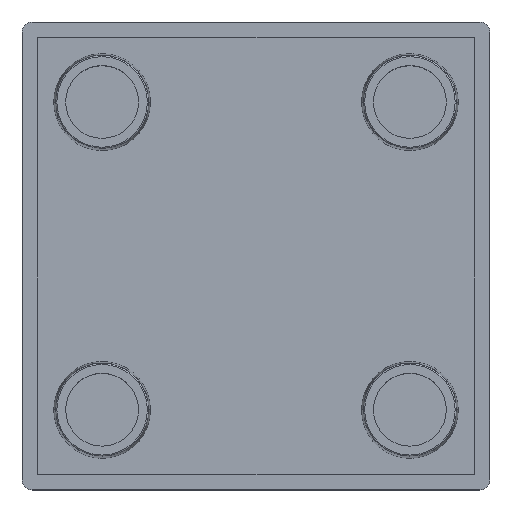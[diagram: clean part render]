
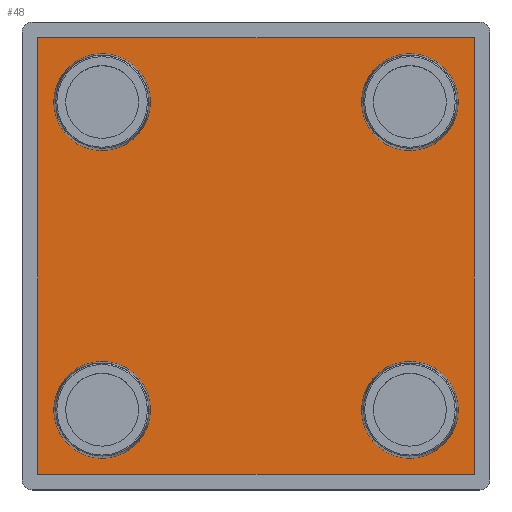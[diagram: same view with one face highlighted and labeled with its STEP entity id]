
A CAD part, top view. The second image highlights one B-rep face of the part: STEP entity #48.
In plain terms, the highlighted planar face has unit normal (0, 0, 1).
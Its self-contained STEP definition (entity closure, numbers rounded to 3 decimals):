
#16 = EDGE_CURVE ( 'NONE', #281, #1581, #121, .T. ) ;
#48 = ADVANCED_FACE ( 'NONE', ( #887, #656, #618, #548, #266 ), #86, .F. ) ;
#81 = CIRCLE ( 'NONE', #1530, 4.65 ) ;
#86 = PLANE ( 'NONE',  #604 ) ;
#121 = CIRCLE ( 'NONE', #1711, 4.65 ) ;
#139 = CARTESIAN_POINT ( 'NONE',  ( -21., -21., 1.5 ) ) ;
#160 = ORIENTED_EDGE ( 'NONE', *, *, #1577, .F. ) ;
#168 = VECTOR ( 'NONE', #1511, 1000. ) ;
#187 = CIRCLE ( 'NONE', #203, 4.65 ) ;
#199 = EDGE_CURVE ( 'NONE', #1371, #631, #1258, .T. ) ;
#200 = ORIENTED_EDGE ( 'NONE', *, *, #1454, .F. ) ;
#201 = EDGE_LOOP ( 'NONE', ( #200, #160 ) ) ;
#203 = AXIS2_PLACEMENT_3D ( 'NONE', #1361, #1410, #1405 ) ;
#224 = ORIENTED_EDGE ( 'NONE', *, *, #1602, .F. ) ;
#229 = VECTOR ( 'NONE', #254, 1000. ) ;
#254 = DIRECTION ( 'NONE',  ( 1., 0., 0. ) ) ;
#266 = FACE_OUTER_BOUND ( 'NONE', #1641, .T. ) ;
#281 = VERTEX_POINT ( 'NONE', #1689 ) ;
#296 = DIRECTION ( 'NONE',  ( -1., 0., 0. ) ) ;
#315 = LINE ( 'NONE', #566, #1003 ) ;
#328 = ORIENTED_EDGE ( 'NONE', *, *, #1492, .T. ) ;
#363 = CARTESIAN_POINT ( 'NONE',  ( 10.15, -14.8, 1.5 ) ) ;
#367 = VERTEX_POINT ( 'NONE', #942 ) ;
#449 = DIRECTION ( 'NONE',  ( -1., 0., 0. ) ) ;
#451 = VERTEX_POINT ( 'NONE', #1251 ) ;
#472 = VERTEX_POINT ( 'NONE', #1389 ) ;
#473 = ORIENTED_EDGE ( 'NONE', *, *, #915, .T. ) ;
#499 = LINE ( 'NONE', #139, #229 ) ;
#548 = FACE_BOUND ( 'NONE', #1423, .T. ) ;
#555 = AXIS2_PLACEMENT_3D ( 'NONE', #1095, #1005, #986 ) ;
#561 = CIRCLE ( 'NONE', #885, 4.65 ) ;
#566 = CARTESIAN_POINT ( 'NONE',  ( -21., -21., 1.5 ) ) ;
#575 = DIRECTION ( 'NONE',  ( 0., -1., 0. ) ) ;
#588 = CARTESIAN_POINT ( 'NONE',  ( 19.45, 14.8, 1.5 ) ) ;
#603 = CIRCLE ( 'NONE', #1063, 4.65 ) ;
#604 = AXIS2_PLACEMENT_3D ( 'NONE', #1146, #1193, #296 ) ;
#618 = FACE_BOUND ( 'NONE', #1054, .T. ) ;
#631 = VERTEX_POINT ( 'NONE', #363 ) ;
#656 = FACE_BOUND ( 'NONE', #201, .T. ) ;
#751 = ORIENTED_EDGE ( 'NONE', *, *, #16, .F. ) ;
#771 = DIRECTION ( 'NONE',  ( -1., 0., 0. ) ) ;
#779 = CIRCLE ( 'NONE', #906, 4.65 ) ;
#789 = ORIENTED_EDGE ( 'NONE', *, *, #1358, .T. ) ;
#794 = ORIENTED_EDGE ( 'NONE', *, *, #1212, .F. ) ;
#822 = EDGE_CURVE ( 'NONE', #1581, #281, #561, .T. ) ;
#871 = VECTOR ( 'NONE', #449, 1000. ) ;
#874 = EDGE_CURVE ( 'NONE', #1460, #451, #1194, .T. ) ;
#885 = AXIS2_PLACEMENT_3D ( 'NONE', #1128, #1632, #1374 ) ;
#887 = FACE_BOUND ( 'NONE', #922, .T. ) ;
#906 = AXIS2_PLACEMENT_3D ( 'NONE', #1236, #955, #963 ) ;
#915 = EDGE_CURVE ( 'NONE', #1720, #1460, #1219, .T. ) ;
#922 = EDGE_LOOP ( 'NONE', ( #794, #970 ) ) ;
#938 = CARTESIAN_POINT ( 'NONE',  ( -21., -21., 1.5 ) ) ;
#942 = CARTESIAN_POINT ( 'NONE',  ( 10.15, 14.8, 1.5 ) ) ;
#955 = DIRECTION ( 'NONE',  ( 0., 0., 1. ) ) ;
#963 = DIRECTION ( 'NONE',  ( -1., 0., 0. ) ) ;
#970 = ORIENTED_EDGE ( 'NONE', *, *, #199, .F. ) ;
#986 = DIRECTION ( 'NONE',  ( -1., 0., 0. ) ) ;
#1003 = VECTOR ( 'NONE', #575, 1000. ) ;
#1005 = DIRECTION ( 'NONE',  ( 0., 0., 1. ) ) ;
#1008 = DIRECTION ( 'NONE',  ( -1., 0., 0. ) ) ;
#1010 = CARTESIAN_POINT ( 'NONE',  ( -21., 21., 1.5 ) ) ;
#1012 = DIRECTION ( 'NONE',  ( 0., 0., 1. ) ) ;
#1033 = DIRECTION ( 'NONE',  ( 0., 0., 1. ) ) ;
#1054 = EDGE_LOOP ( 'NONE', ( #1166, #751 ) ) ;
#1063 = AXIS2_PLACEMENT_3D ( 'NONE', #1117, #1012, #1008 ) ;
#1073 = CARTESIAN_POINT ( 'NONE',  ( 19.45, -14.8, 1.5 ) ) ;
#1081 = DIRECTION ( 'NONE',  ( -1., 0., 0. ) ) ;
#1090 = DIRECTION ( 'NONE',  ( 0., 0., 1. ) ) ;
#1094 = CARTESIAN_POINT ( 'NONE',  ( -14.8, 14.8, 1.5 ) ) ;
#1095 = CARTESIAN_POINT ( 'NONE',  ( -14.8, 14.8, 1.5 ) ) ;
#1103 = ORIENTED_EDGE ( 'NONE', *, *, #874, .T. ) ;
#1117 = CARTESIAN_POINT ( 'NONE',  ( 14.8, 14.8, 1.5 ) ) ;
#1128 = CARTESIAN_POINT ( 'NONE',  ( -14.8, -14.8, 1.5 ) ) ;
#1146 = CARTESIAN_POINT ( 'NONE',  ( 0., 0., 1.5 ) ) ;
#1151 = CARTESIAN_POINT ( 'NONE',  ( 21., 21., 1.5 ) ) ;
#1159 = DIRECTION ( 'NONE',  ( -1., 0., 0. ) ) ;
#1166 = ORIENTED_EDGE ( 'NONE', *, *, #822, .F. ) ;
#1193 = DIRECTION ( 'NONE',  ( 0., 0., -1. ) ) ;
#1194 = LINE ( 'NONE', #1010, #871 ) ;
#1212 = EDGE_CURVE ( 'NONE', #631, #1371, #779, .T. ) ;
#1219 = LINE ( 'NONE', #1501, #168 ) ;
#1232 = CARTESIAN_POINT ( 'NONE',  ( 21., -21., 1.5 ) ) ;
#1236 = CARTESIAN_POINT ( 'NONE',  ( 14.8, -14.8, 1.5 ) ) ;
#1251 = CARTESIAN_POINT ( 'NONE',  ( -21., 21., 1.5 ) ) ;
#1258 = CIRCLE ( 'NONE', #1516, 4.65 ) ;
#1283 = CARTESIAN_POINT ( 'NONE',  ( -14.8, -14.8, 1.5 ) ) ;
#1289 = CARTESIAN_POINT ( 'NONE',  ( -10.15, 14.8, 1.5 ) ) ;
#1291 = EDGE_CURVE ( 'NONE', #1471, #472, #81, .T. ) ;
#1299 = VERTEX_POINT ( 'NONE', #938 ) ;
#1358 = EDGE_CURVE ( 'NONE', #1299, #1720, #499, .T. ) ;
#1361 = CARTESIAN_POINT ( 'NONE',  ( 14.8, 14.8, 1.5 ) ) ;
#1371 = VERTEX_POINT ( 'NONE', #1073 ) ;
#1374 = DIRECTION ( 'NONE',  ( -1., 0., 0. ) ) ;
#1389 = CARTESIAN_POINT ( 'NONE',  ( -19.45, 14.8, 1.5 ) ) ;
#1405 = DIRECTION ( 'NONE',  ( -1., 0., 0. ) ) ;
#1410 = DIRECTION ( 'NONE',  ( 0., 0., 1. ) ) ;
#1423 = EDGE_LOOP ( 'NONE', ( #224, #1717 ) ) ;
#1454 = EDGE_CURVE ( 'NONE', #367, #1661, #603, .T. ) ;
#1455 = DIRECTION ( 'NONE',  ( 0., 0., 1. ) ) ;
#1460 = VERTEX_POINT ( 'NONE', #1151 ) ;
#1471 = VERTEX_POINT ( 'NONE', #1289 ) ;
#1477 = CARTESIAN_POINT ( 'NONE',  ( -19.45, -14.8, 1.5 ) ) ;
#1492 = EDGE_CURVE ( 'NONE', #451, #1299, #315, .T. ) ;
#1501 = CARTESIAN_POINT ( 'NONE',  ( 21., -21., 1.5 ) ) ;
#1511 = DIRECTION ( 'NONE',  ( 0., 1., 0. ) ) ;
#1516 = AXIS2_PLACEMENT_3D ( 'NONE', #1543, #1033, #1159 ) ;
#1530 = AXIS2_PLACEMENT_3D ( 'NONE', #1094, #1090, #1081 ) ;
#1543 = CARTESIAN_POINT ( 'NONE',  ( 14.8, -14.8, 1.5 ) ) ;
#1577 = EDGE_CURVE ( 'NONE', #1661, #367, #187, .T. ) ;
#1581 = VERTEX_POINT ( 'NONE', #1477 ) ;
#1602 = EDGE_CURVE ( 'NONE', #472, #1471, #1706, .T. ) ;
#1632 = DIRECTION ( 'NONE',  ( 0., 0., 1. ) ) ;
#1641 = EDGE_LOOP ( 'NONE', ( #473, #1103, #328, #789 ) ) ;
#1661 = VERTEX_POINT ( 'NONE', #588 ) ;
#1689 = CARTESIAN_POINT ( 'NONE',  ( -10.15, -14.8, 1.5 ) ) ;
#1706 = CIRCLE ( 'NONE', #555, 4.65 ) ;
#1711 = AXIS2_PLACEMENT_3D ( 'NONE', #1283, #1455, #771 ) ;
#1717 = ORIENTED_EDGE ( 'NONE', *, *, #1291, .F. ) ;
#1720 = VERTEX_POINT ( 'NONE', #1232 ) ;
